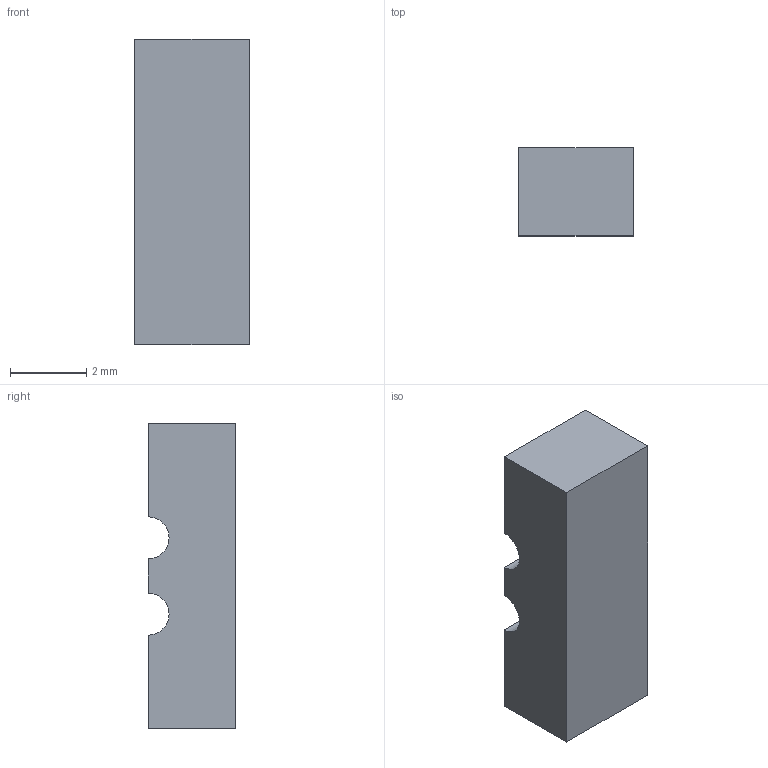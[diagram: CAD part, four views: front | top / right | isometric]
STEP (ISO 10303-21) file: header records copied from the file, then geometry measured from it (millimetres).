
FILE_DESCRIPTION(('Open CASCADE Model'),'2;1');
FILE_NAME('BATTERY_SPLIT_STRAIN_RELIEF_FRONT','2026-09-06T11:49:22',( 'Author'),('Open CASCADE'),'Open CASCADE STEP processor 7.8', 'build123d','Unknown');
FILE_SCHEMA(('AUTOMOTIVE_DESIGN { 1 0 10303 214 1 1 1 1 }'));
Length unit declared in the file: millimetre
Products named in the file (2): =>[0:1:1:2]; BATTERY_SPLIT_STRAIN_RELIEF_FRONT
Assembly tree (1 placements, depth 2):
  =>[0:1:1:2]
    BATTERY_SPLIT_STRAIN_RELIEF_FRONT
Bounding box: 3 x 2.3 x 8 mm (x, y, z)
Volume: 52.3 mm3; surface area: 100.5 mm2
Topology: 1 solids, 1 shells, 10 faces, 24 edges, 16 vertices
Faces by surface type: plane 8, cylinder 2
Entity records: 630 total; most frequent: CARTESIAN_POINT 102, DIRECTION 98, LINE 62, VECTOR 62, ORIENTED_EDGE 48, PCURVE 48, DEFINITIONAL_REPRESENTATION 48, EDGE_CURVE 24
